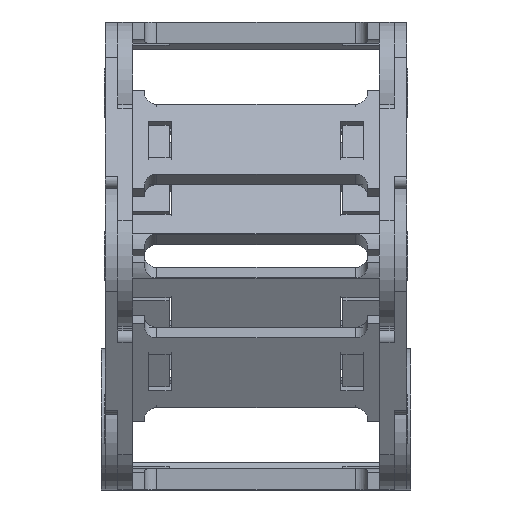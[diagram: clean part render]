
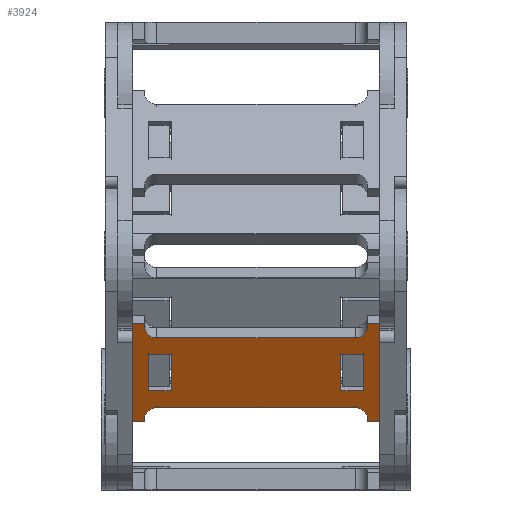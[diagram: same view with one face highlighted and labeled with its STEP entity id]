
A CAD part, left-side view. The second image highlights one B-rep face of the part: STEP entity #3924.
In plain terms, the highlighted planar face has unit normal (-0.866, 0, -0.5) as drawn and (0, -1, 0) by its records, which use the part's own axes.
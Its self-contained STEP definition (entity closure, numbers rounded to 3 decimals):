
#3023=DIRECTION('',(0.,0.,1.));
#3024=VECTOR('',#3023,10.3);
#3025=CARTESIAN_POINT('',(32.,0.,-5.15));
#3026=LINE('',#3025,#3024);
#3048=DIRECTION('',(0.,0.,1.));
#3049=VECTOR('',#3048,28.);
#3050=CARTESIAN_POINT('',(41.5,0.,-14.));
#3051=LINE('',#3050,#3049);
#3101=DIRECTION('',(-1.,0.,0.));
#3102=VECTOR('',#3101,5.5);
#3103=CARTESIAN_POINT('',(37.5,0.,-5.15));
#3104=LINE('',#3103,#3102);
#3125=DIRECTION('',(1.,0.,0.));
#3126=VECTOR('',#3125,5.5);
#3127=CARTESIAN_POINT('',(32.,0.,5.15));
#3128=LINE('',#3127,#3126);
#3133=DIRECTION('',(0.,0.,-1.));
#3134=VECTOR('',#3133,10.3);
#3135=CARTESIAN_POINT('',(-15.5,0.,5.15));
#3136=LINE('',#3135,#3134);
#3137=DIRECTION('',(0.,0.,1.));
#3138=VECTOR('',#3137,10.3);
#3139=CARTESIAN_POINT('',(37.5,0.,-5.15));
#3140=LINE('',#3139,#3138);
#3141=CARTESIAN_POINT('',(35.5,0.,13.));
#3142=DIRECTION('',(0.,-1.,0.));
#3143=DIRECTION('',(0.,0.,-1.));
#3144=AXIS2_PLACEMENT_3D('',#3141,#3142,#3143);
#3146=CARTESIAN_POINT('',(35.5,0.,-13.));
#3147=DIRECTION('',(0.,-1.,0.));
#3148=DIRECTION('',(1.,0.,0.));
#3149=AXIS2_PLACEMENT_3D('',#3146,#3147,#3148);
#3171=DIRECTION('',(1.,0.,0.));
#3172=VECTOR('',#3171,5.5);
#3173=CARTESIAN_POINT('',(-15.5,0.,5.15));
#3174=LINE('',#3173,#3172);
#3191=DIRECTION('',(0.,0.,-1.));
#3192=VECTOR('',#3191,10.3);
#3193=CARTESIAN_POINT('',(-10.,0.,5.15));
#3194=LINE('',#3193,#3192);
#3224=DIRECTION('',(0.,0.,-1.));
#3225=VECTOR('',#3224,28.);
#3226=CARTESIAN_POINT('',(-19.5,0.,14.));
#3227=LINE('',#3226,#3225);
#3277=DIRECTION('',(-1.,0.,0.));
#3278=VECTOR('',#3277,49.);
#3279=CARTESIAN_POINT('',(35.5,0.,10.));
#3280=LINE('',#3279,#3278);
#3281=CARTESIAN_POINT('',(-13.5,0.,13.));
#3282=DIRECTION('',(0.,1.,0.));
#3283=DIRECTION('',(0.,0.,-1.));
#3284=AXIS2_PLACEMENT_3D('',#3281,#3282,#3283);
#3311=DIRECTION('',(0.,0.,1.));
#3312=VECTOR('',#3311,1.);
#3313=CARTESIAN_POINT('',(-16.5,0.,13.));
#3314=LINE('',#3313,#3312);
#3324=DIRECTION('',(-1.,0.,0.));
#3325=VECTOR('',#3324,3.);
#3326=CARTESIAN_POINT('',(-16.5,0.,14.));
#3327=LINE('',#3326,#3325);
#3366=DIRECTION('',(0.,0.,-1.));
#3367=VECTOR('',#3366,1.);
#3368=CARTESIAN_POINT('',(38.5,0.,14.));
#3369=LINE('',#3368,#3367);
#3370=DIRECTION('',(-1.,0.,0.));
#3371=VECTOR('',#3370,3.);
#3372=CARTESIAN_POINT('',(41.5,0.,14.));
#3373=LINE('',#3372,#3371);
#3378=DIRECTION('',(1.,0.,0.));
#3379=VECTOR('',#3378,3.);
#3380=CARTESIAN_POINT('',(-19.5,0.,-14.));
#3381=LINE('',#3380,#3379);
#3407=DIRECTION('',(0.,0.,1.));
#3408=VECTOR('',#3407,1.);
#3409=CARTESIAN_POINT('',(-16.5,0.,-14.));
#3410=LINE('',#3409,#3408);
#3432=CARTESIAN_POINT('',(-13.5,0.,-13.));
#3433=DIRECTION('',(0.,1.,0.));
#3434=DIRECTION('',(-1.,0.,0.));
#3435=AXIS2_PLACEMENT_3D('',#3432,#3433,#3434);
#3441=DIRECTION('',(1.,0.,0.));
#3442=VECTOR('',#3441,49.);
#3443=CARTESIAN_POINT('',(-13.5,0.,-10.));
#3444=LINE('',#3443,#3442);
#3483=DIRECTION('',(0.,0.,-1.));
#3484=VECTOR('',#3483,1.);
#3485=CARTESIAN_POINT('',(38.5,0.,-13.));
#3486=LINE('',#3485,#3484);
#3491=DIRECTION('',(1.,0.,0.));
#3492=VECTOR('',#3491,3.);
#3493=CARTESIAN_POINT('',(38.5,0.,-14.));
#3494=LINE('',#3493,#3492);
#3511=DIRECTION('',(-1.,0.,0.));
#3512=VECTOR('',#3511,5.5);
#3513=CARTESIAN_POINT('',(-10.,0.,-5.15));
#3514=LINE('',#3513,#3512);
#3580=CARTESIAN_POINT('',(41.5,0.,-14.));
#3581=VERTEX_POINT('',#3580);
#3582=CARTESIAN_POINT('',(41.5,0.,14.));
#3583=VERTEX_POINT('',#3582);
#3587=CARTESIAN_POINT('',(32.,0.,-5.15));
#3589=VERTEX_POINT('',#3587);
#3590=CARTESIAN_POINT('',(32.,0.,5.15));
#3591=VERTEX_POINT('',#3590);
#3598=CARTESIAN_POINT('',(37.5,0.,-5.15));
#3599=VERTEX_POINT('',#3598);
#3602=CARTESIAN_POINT('',(37.5,0.,5.15));
#3603=VERTEX_POINT('',#3602);
#3604=CARTESIAN_POINT('',(35.5,0.,10.));
#3605=CARTESIAN_POINT('',(38.5,0.,13.));
#3606=VERTEX_POINT('',#3604);
#3607=VERTEX_POINT('',#3605);
#3608=CARTESIAN_POINT('',(38.5,0.,14.));
#3609=VERTEX_POINT('',#3608);
#3610=CARTESIAN_POINT('',(38.5,0.,-14.));
#3611=VERTEX_POINT('',#3610);
#3612=CARTESIAN_POINT('',(38.5,0.,-13.));
#3613=VERTEX_POINT('',#3612);
#3614=CARTESIAN_POINT('',(35.5,0.,-10.));
#3615=VERTEX_POINT('',#3614);
#3637=CARTESIAN_POINT('',(-19.5,0.,-14.));
#3638=CARTESIAN_POINT('',(-16.5,0.,-14.));
#3639=VERTEX_POINT('',#3637);
#3640=VERTEX_POINT('',#3638);
#3641=CARTESIAN_POINT('',(-19.5,0.,14.));
#3642=VERTEX_POINT('',#3641);
#3643=CARTESIAN_POINT('',(-16.5,0.,14.));
#3644=VERTEX_POINT('',#3643);
#3645=CARTESIAN_POINT('',(-15.5,0.,5.15));
#3646=CARTESIAN_POINT('',(-15.5,0.,-5.15));
#3647=VERTEX_POINT('',#3645);
#3648=VERTEX_POINT('',#3646);
#3649=CARTESIAN_POINT('',(-10.,0.,-5.15));
#3650=VERTEX_POINT('',#3649);
#3651=CARTESIAN_POINT('',(-10.,0.,5.15));
#3652=VERTEX_POINT('',#3651);
#3665=CARTESIAN_POINT('',(-13.5,0.,-10.));
#3667=VERTEX_POINT('',#3665);
#3669=CARTESIAN_POINT('',(-16.5,0.,-13.));
#3671=VERTEX_POINT('',#3669);
#3674=CARTESIAN_POINT('',(-13.5,0.,10.));
#3676=VERTEX_POINT('',#3674);
#3678=CARTESIAN_POINT('',(-16.5,0.,13.));
#3680=VERTEX_POINT('',#3678);
#3870=CARTESIAN_POINT('',(22.,0.,0.));
#3871=DIRECTION('',(0.,1.,0.));
#3872=DIRECTION('',(1.,0.,0.));
#3873=AXIS2_PLACEMENT_3D('',#3870,#3871,#3872);
#3874=PLANE('',#3873);
#3876=ORIENTED_EDGE('',*,*,#3875,.F.);
#3878=ORIENTED_EDGE('',*,*,#3877,.F.);
#3880=ORIENTED_EDGE('',*,*,#3879,.F.);
#3882=ORIENTED_EDGE('',*,*,#3881,.T.);
#3884=ORIENTED_EDGE('',*,*,#3883,.F.);
#3886=ORIENTED_EDGE('',*,*,#3885,.F.);
#3887=ORIENTED_EDGE('',*,*,#3762,.F.);
#3889=ORIENTED_EDGE('',*,*,#3888,.F.);
#3891=ORIENTED_EDGE('',*,*,#3890,.F.);
#3893=ORIENTED_EDGE('',*,*,#3892,.T.);
#3895=ORIENTED_EDGE('',*,*,#3894,.F.);
#3897=ORIENTED_EDGE('',*,*,#3896,.F.);
#3899=ORIENTED_EDGE('',*,*,#3898,.F.);
#3901=ORIENTED_EDGE('',*,*,#3900,.F.);
#3903=ORIENTED_EDGE('',*,*,#3902,.F.);
#3905=ORIENTED_EDGE('',*,*,#3904,.F.);
#3906=EDGE_LOOP('',(#3876,#3878,#3880,#3882,#3884,#3886,#3887,#3889,#3891,#3893,
#3895,#3897,#3899,#3901,#3903,#3905));
#3907=FACE_OUTER_BOUND('',#3906,.F.);
#3908=ORIENTED_EDGE('',*,*,#3848,.T.);
#3909=ORIENTED_EDGE('',*,*,#3860,.F.);
#3910=ORIENTED_EDGE('',*,*,#3727,.F.);
#3911=ORIENTED_EDGE('',*,*,#3818,.F.);
#3912=EDGE_LOOP('',(#3908,#3909,#3910,#3911));
#3913=FACE_BOUND('',#3912,.F.);
#3915=ORIENTED_EDGE('',*,*,#3914,.T.);
#3917=ORIENTED_EDGE('',*,*,#3916,.F.);
#3919=ORIENTED_EDGE('',*,*,#3918,.F.);
#3921=ORIENTED_EDGE('',*,*,#3920,.F.);
#3922=EDGE_LOOP('',(#3915,#3917,#3919,#3921));
#3923=FACE_BOUND('',#3922,.F.);
#3924=ADVANCED_FACE('',(#3907,#3913,#3923),#3874,.F.);
#3145=CIRCLE('',#3144,3.);
#3150=CIRCLE('',#3149,3.);
#3285=CIRCLE('',#3284,3.);
#3436=CIRCLE('',#3435,3.);
#3727=EDGE_CURVE('',#3589,#3591,#3026,.T.);
#3762=EDGE_CURVE('',#3581,#3583,#3051,.T.);
#3818=EDGE_CURVE('',#3599,#3589,#3104,.T.);
#3848=EDGE_CURVE('',#3599,#3603,#3140,.T.);
#3860=EDGE_CURVE('',#3591,#3603,#3128,.T.);
#3875=EDGE_CURVE('',#3680,#3644,#3314,.T.);
#3877=EDGE_CURVE('',#3676,#3680,#3285,.T.);
#3879=EDGE_CURVE('',#3606,#3676,#3280,.T.);
#3881=EDGE_CURVE('',#3606,#3607,#3145,.T.);
#3883=EDGE_CURVE('',#3609,#3607,#3369,.T.);
#3885=EDGE_CURVE('',#3583,#3609,#3373,.T.);
#3888=EDGE_CURVE('',#3611,#3581,#3494,.T.);
#3890=EDGE_CURVE('',#3613,#3611,#3486,.T.);
#3892=EDGE_CURVE('',#3613,#3615,#3150,.T.);
#3894=EDGE_CURVE('',#3667,#3615,#3444,.T.);
#3896=EDGE_CURVE('',#3671,#3667,#3436,.T.);
#3898=EDGE_CURVE('',#3640,#3671,#3410,.T.);
#3900=EDGE_CURVE('',#3639,#3640,#3381,.T.);
#3902=EDGE_CURVE('',#3642,#3639,#3227,.T.);
#3904=EDGE_CURVE('',#3644,#3642,#3327,.T.);
#3914=EDGE_CURVE('',#3647,#3648,#3136,.T.);
#3916=EDGE_CURVE('',#3650,#3648,#3514,.T.);
#3918=EDGE_CURVE('',#3652,#3650,#3194,.T.);
#3920=EDGE_CURVE('',#3647,#3652,#3174,.T.);
